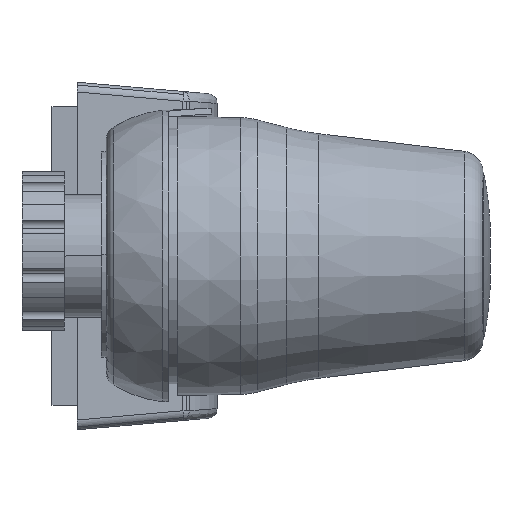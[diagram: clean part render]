
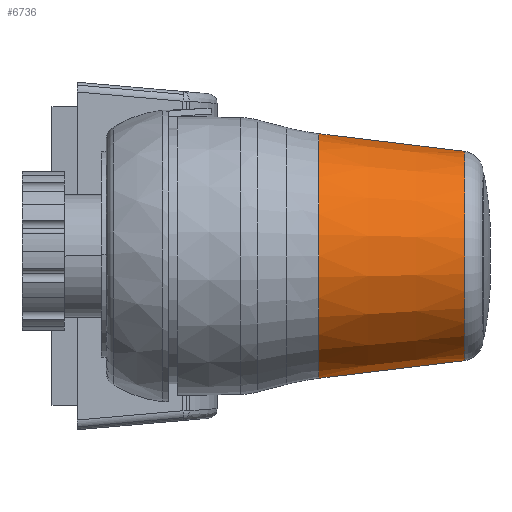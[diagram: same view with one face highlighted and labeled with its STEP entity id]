
A CAD part, left-side view. The second image highlights one B-rep face of the part: STEP entity #6736.
In plain terms, the highlighted conical face has half-angle 6.911 degrees and reference radius 23.387 mm.
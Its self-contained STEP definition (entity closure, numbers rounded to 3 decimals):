
#6285=CARTESIAN_POINT('',(0.,-84.315,-21.381));
#6286=VERTEX_POINT('',#6285);
#6296=CARTESIAN_POINT('',(0.0,-84.315,21.381));
#6297=VERTEX_POINT('',#6296);
#6534=CARTESIAN_POINT('',(0.0,-54.553,24.989));
#6535=VERTEX_POINT('',#6534);
#6536=CARTESIAN_POINT('',(0.0,-84.315,21.381));
#6537=DIRECTION('',(0.0,0.993,0.12));
#6538=VECTOR('',#6537,29.98);
#6539=LINE('',#6536,#6538);
#6540=EDGE_CURVE('',#6297,#6535,#6539,.T.);
#6543=CARTESIAN_POINT('',(0.,-54.553,-24.989));
#6544=VERTEX_POINT('',#6543);
#6545=CARTESIAN_POINT('',(0.,-54.553,-24.989));
#6546=DIRECTION('',(0.,-0.993,0.12));
#6547=VECTOR('',#6546,29.98);
#6548=LINE('',#6545,#6547);
#6549=EDGE_CURVE('',#6544,#6286,#6548,.T.);
#6649=CARTESIAN_POINT('',(0.0,-54.553,0.0));
#6650=DIRECTION('',(0.0,1.0,0.0));
#6651=DIRECTION('',(0.0,0.0,-1.0));
#6652=AXIS2_PLACEMENT_3D('',#6649,#6650,#6651);
#6653=CIRCLE('',#6652,24.989);
#6654=EDGE_CURVE('',#6544,#6535,#6653,.T.);
#6719=CARTESIAN_POINT('',(0.0,-67.763,0.0));
#6720=DIRECTION('',(0.,1.0,0.0));
#6721=DIRECTION('',(0.0,0.0,1.0));
#6722=AXIS2_PLACEMENT_3D('',#6719,#6720,#6721);
#6723=CONICAL_SURFACE('',#6722,23.387,6.911);
#6724=ORIENTED_EDGE('',*,*,#6540,.T.);
#6725=ORIENTED_EDGE('',*,*,#6654,.F.);
#6726=ORIENTED_EDGE('',*,*,#6549,.T.);
#6727=CARTESIAN_POINT('',(0.0,-84.315,0.0));
#6728=DIRECTION('',(0.0,-1.0,0.0));
#6729=DIRECTION('',(1.0,0.0,0.0));
#6730=AXIS2_PLACEMENT_3D('',#6727,#6728,#6729);
#6731=CIRCLE('',#6730,21.381);
#6732=EDGE_CURVE('',#6297,#6286,#6731,.T.);
#6733=ORIENTED_EDGE('',*,*,#6732,.F.);
#6734=EDGE_LOOP('',(#6724,#6725,#6726,#6733));
#6735=FACE_OUTER_BOUND('',#6734,.T.);
#6736=ADVANCED_FACE('',(#6735),#6723,.T.);
